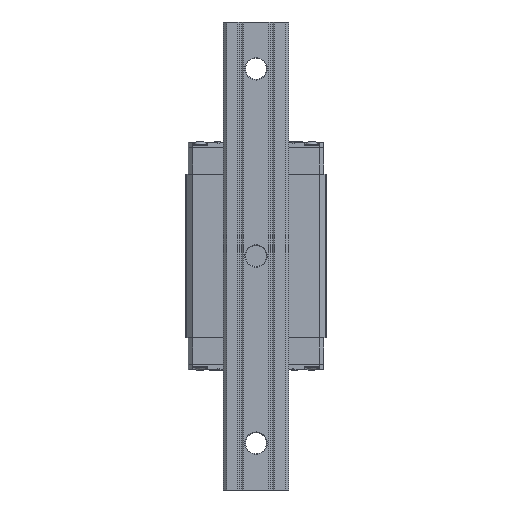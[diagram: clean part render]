
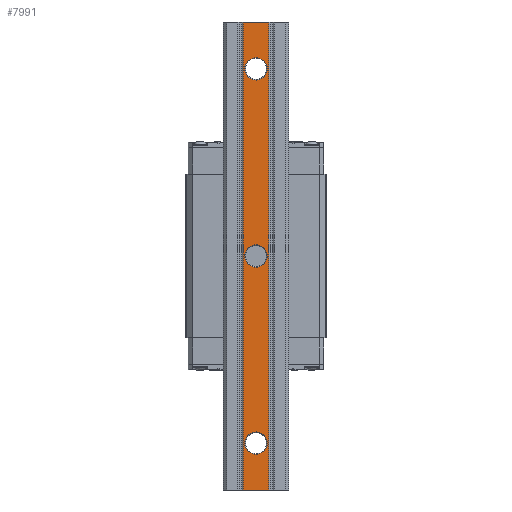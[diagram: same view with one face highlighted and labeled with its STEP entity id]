
A CAD part, front view. The second image highlights one B-rep face of the part: STEP entity #7991.
In plain terms, the highlighted planar face has unit normal (0, -1, 0).
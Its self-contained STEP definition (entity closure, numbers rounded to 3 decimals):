
#7550=FACE_BOUND('',#10517,.T.);
#7551=FACE_BOUND('',#10518,.T.);
#7552=FACE_BOUND('',#10519,.T.);
#7553=FACE_BOUND('',#10520,.T.);
#7991=ADVANCED_FACE('',(#7550,#7551,#7552,#7553),#9002,.T.);
#9002=PLANE('',#25391);
#10517=EDGE_LOOP('',(#15013,#15014,#15015,#15016));
#10518=EDGE_LOOP('',(#15017,#15018,#15019,#15020));
#10519=EDGE_LOOP('',(#15021,#15022,#15023,#15024));
#10520=EDGE_LOOP('',(#15025,#15026,#15027,#15028));
#11656=LINE('',#31297,#13215);
#11705=LINE('',#31439,#13264);
#11706=LINE('',#31441,#13265);
#11707=LINE('',#31443,#13266);
#13215=VECTOR('',#26773,1.);
#13264=VECTOR('',#26906,1.);
#13265=VECTOR('',#26909,1.);
#13266=VECTOR('',#26910,1.);
#15013=ORIENTED_EDGE('',*,*,#22177,.T.);
#15014=ORIENTED_EDGE('',*,*,#22178,.F.);
#15015=ORIENTED_EDGE('',*,*,#22179,.F.);
#15016=ORIENTED_EDGE('',*,*,#22106,.T.);
#15017=ORIENTED_EDGE('',*,*,#22180,.F.);
#15018=ORIENTED_EDGE('',*,*,#22181,.F.);
#15019=ORIENTED_EDGE('',*,*,#22182,.F.);
#15020=ORIENTED_EDGE('',*,*,#22183,.F.);
#15021=ORIENTED_EDGE('',*,*,#22184,.F.);
#15022=ORIENTED_EDGE('',*,*,#22185,.F.);
#15023=ORIENTED_EDGE('',*,*,#22186,.F.);
#15024=ORIENTED_EDGE('',*,*,#22187,.F.);
#15025=ORIENTED_EDGE('',*,*,#22188,.F.);
#15026=ORIENTED_EDGE('',*,*,#22189,.F.);
#15027=ORIENTED_EDGE('',*,*,#22190,.F.);
#15028=ORIENTED_EDGE('',*,*,#22191,.F.);
#20306=VERTEX_POINT('',#31296);
#20307=VERTEX_POINT('',#31298);
#20357=VERTEX_POINT('',#31438);
#20358=VERTEX_POINT('',#31442);
#20359=VERTEX_POINT('',#31445);
#20360=VERTEX_POINT('',#31446);
#20361=VERTEX_POINT('',#31448);
#20362=VERTEX_POINT('',#31450);
#20363=VERTEX_POINT('',#31453);
#20364=VERTEX_POINT('',#31454);
#20365=VERTEX_POINT('',#31456);
#20366=VERTEX_POINT('',#31458);
#20367=VERTEX_POINT('',#31461);
#20368=VERTEX_POINT('',#31462);
#20369=VERTEX_POINT('',#31464);
#20370=VERTEX_POINT('',#31466);
#22106=EDGE_CURVE('',#20307,#20306,#11656,.T.);
#22177=EDGE_CURVE('',#20306,#20357,#11705,.T.);
#22178=EDGE_CURVE('',#20358,#20357,#11706,.T.);
#22179=EDGE_CURVE('',#20307,#20358,#11707,.T.);
#22180=EDGE_CURVE('',#20359,#20360,#24819,.T.);
#22181=EDGE_CURVE('',#20361,#20359,#24820,.T.);
#22182=EDGE_CURVE('',#20362,#20361,#24821,.T.);
#22183=EDGE_CURVE('',#20360,#20362,#24822,.T.);
#22184=EDGE_CURVE('',#20363,#20364,#24823,.T.);
#22185=EDGE_CURVE('',#20365,#20363,#24824,.T.);
#22186=EDGE_CURVE('',#20366,#20365,#24825,.T.);
#22187=EDGE_CURVE('',#20364,#20366,#24826,.T.);
#22188=EDGE_CURVE('',#20367,#20368,#24827,.T.);
#22189=EDGE_CURVE('',#20369,#20367,#24828,.T.);
#22190=EDGE_CURVE('',#20370,#20369,#24829,.T.);
#22191=EDGE_CURVE('',#20368,#20370,#24830,.T.);
#24819=CIRCLE('',#25379,4.8);
#24820=CIRCLE('',#25380,4.8);
#24821=CIRCLE('',#25381,4.8);
#24822=CIRCLE('',#25382,4.8);
#24823=CIRCLE('',#25383,4.8);
#24824=CIRCLE('',#25384,4.8);
#24825=CIRCLE('',#25385,4.8);
#24826=CIRCLE('',#25386,4.8);
#24827=CIRCLE('',#25387,4.8);
#24828=CIRCLE('',#25388,4.8);
#24829=CIRCLE('',#25389,4.8);
#24830=CIRCLE('',#25390,4.8);
#25379=AXIS2_PLACEMENT_3D('',#31444,#26911,#26912);
#25380=AXIS2_PLACEMENT_3D('',#31447,#26913,#26914);
#25381=AXIS2_PLACEMENT_3D('',#31449,#26915,#26916);
#25382=AXIS2_PLACEMENT_3D('',#31451,#26917,#26918);
#25383=AXIS2_PLACEMENT_3D('',#31452,#26919,#26920);
#25384=AXIS2_PLACEMENT_3D('',#31455,#26921,#26922);
#25385=AXIS2_PLACEMENT_3D('',#31457,#26923,#26924);
#25386=AXIS2_PLACEMENT_3D('',#31459,#26925,#26926);
#25387=AXIS2_PLACEMENT_3D('',#31460,#26927,#26928);
#25388=AXIS2_PLACEMENT_3D('',#31463,#26929,#26930);
#25389=AXIS2_PLACEMENT_3D('',#31465,#26931,#26932);
#25390=AXIS2_PLACEMENT_3D('',#31467,#26933,#26934);
#25391=AXIS2_PLACEMENT_3D('',#31468,#26935,#26936);
#26773=DIRECTION('',(1.,0.,0.));
#26906=DIRECTION('',(0.,0.,1.));
#26909=DIRECTION('',(1.,0.,0.));
#26910=DIRECTION('',(0.,0.,1.));
#26911=DIRECTION('',(0.,-1.,0.));
#26912=DIRECTION('',(0.,0.,1.));
#26913=DIRECTION('',(0.,-1.,0.));
#26914=DIRECTION('',(1.,0.,0.));
#26915=DIRECTION('',(0.,-1.,0.));
#26916=DIRECTION('',(0.,0.,-1.));
#26917=DIRECTION('',(0.,-1.,0.));
#26918=DIRECTION('',(-1.,0.,0.));
#26919=DIRECTION('',(0.,-1.,0.));
#26920=DIRECTION('',(0.,0.,1.));
#26921=DIRECTION('',(0.,-1.,0.));
#26922=DIRECTION('',(1.,0.,0.));
#26923=DIRECTION('',(0.,-1.,0.));
#26924=DIRECTION('',(0.,0.,-1.));
#26925=DIRECTION('',(0.,-1.,0.));
#26926=DIRECTION('',(-1.,0.,0.));
#26927=DIRECTION('',(0.,-1.,0.));
#26928=DIRECTION('',(0.,0.,1.));
#26929=DIRECTION('',(0.,-1.,0.));
#26930=DIRECTION('',(1.,0.,0.));
#26931=DIRECTION('',(0.,-1.,0.));
#26932=DIRECTION('',(0.,0.,-1.));
#26933=DIRECTION('',(0.,-1.,0.));
#26934=DIRECTION('',(-1.,0.,0.));
#26935=DIRECTION('',(0.,-1.,0.));
#26936=DIRECTION('',(1.,0.,0.));
#31296=CARTESIAN_POINT('',(5.55,-26.,-100.));
#31297=CARTESIAN_POINT('',(-5.55,-26.,-100.));
#31298=CARTESIAN_POINT('',(-5.55,-26.,-100.));
#31438=CARTESIAN_POINT('',(5.55,-26.,100.));
#31439=CARTESIAN_POINT('',(5.55,-26.,-100.));
#31441=CARTESIAN_POINT('',(-5.55,-26.,100.));
#31442=CARTESIAN_POINT('',(-5.55,-26.,100.));
#31443=CARTESIAN_POINT('',(-5.55,-26.,-100.));
#31444=CARTESIAN_POINT('',(0.,-26.,-80.));
#31445=CARTESIAN_POINT('',(0.,-26.,-75.2));
#31446=CARTESIAN_POINT('',(-4.8,-26.,-80.));
#31447=CARTESIAN_POINT('',(0.,-26.,-80.));
#31448=CARTESIAN_POINT('',(4.8,-26.,-80.));
#31449=CARTESIAN_POINT('',(0.,-26.,-80.));
#31450=CARTESIAN_POINT('',(0.,-26.,-84.8));
#31451=CARTESIAN_POINT('',(0.,-26.,-80.));
#31452=CARTESIAN_POINT('',(0.,-26.,0.));
#31453=CARTESIAN_POINT('',(0.,-26.,4.8));
#31454=CARTESIAN_POINT('',(-4.8,-26.,0.));
#31455=CARTESIAN_POINT('',(0.,-26.,0.));
#31456=CARTESIAN_POINT('',(4.8,-26.,0.));
#31457=CARTESIAN_POINT('',(0.,-26.,0.));
#31458=CARTESIAN_POINT('',(0.,-26.,-4.8));
#31459=CARTESIAN_POINT('',(0.,-26.,0.));
#31460=CARTESIAN_POINT('',(0.,-26.,80.));
#31461=CARTESIAN_POINT('',(0.,-26.,84.8));
#31462=CARTESIAN_POINT('',(-4.8,-26.,80.));
#31463=CARTESIAN_POINT('',(0.,-26.,80.));
#31464=CARTESIAN_POINT('',(4.8,-26.,80.));
#31465=CARTESIAN_POINT('',(0.,-26.,80.));
#31466=CARTESIAN_POINT('',(0.,-26.,75.2));
#31467=CARTESIAN_POINT('',(0.,-26.,80.));
#31468=CARTESIAN_POINT('',(-5.55,-26.,-100.));
